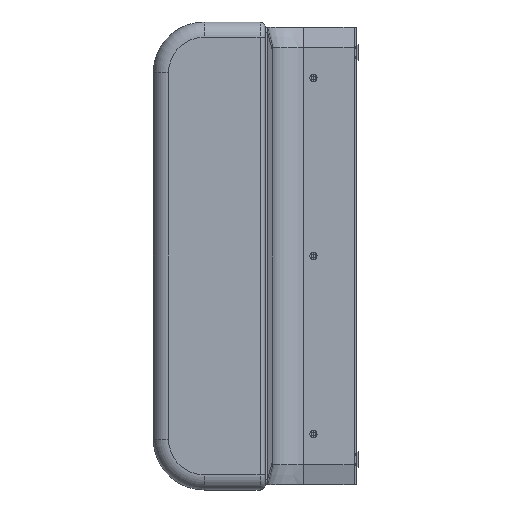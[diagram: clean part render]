
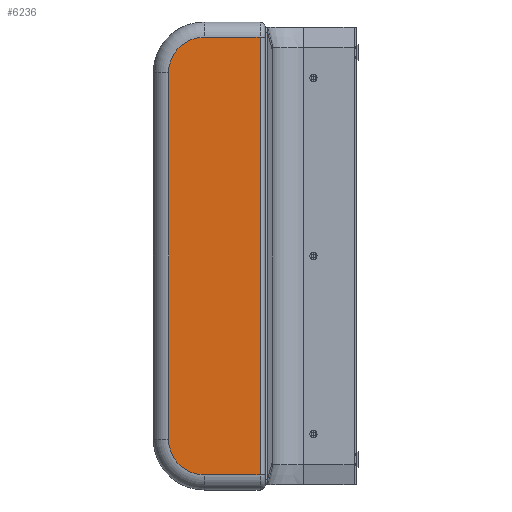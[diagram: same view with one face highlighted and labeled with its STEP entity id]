
A CAD part, left-side view. The second image highlights one B-rep face of the part: STEP entity #6236.
In plain terms, the highlighted planar face has unit normal (-1, 0, 0).
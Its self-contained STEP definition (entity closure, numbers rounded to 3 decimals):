
#65 = EDGE_CURVE ( 'NONE', #8053, #1439, #7484, .T. ) ;
#128 = EDGE_LOOP ( 'NONE', ( #5750, #6255, #241, #4865, #5634, #6027 ) ) ;
#234 = VECTOR ( 'NONE', #5374, 1000. ) ;
#241 = ORIENTED_EDGE ( 'NONE', *, *, #5636, .T. ) ;
#414 = EDGE_CURVE ( 'NONE', #6365, #8053, #2145, .T. ) ;
#556 = CARTESIAN_POINT ( 'NONE',  ( -690., 10., -20. ) ) ;
#706 = EDGE_CURVE ( 'NONE', #1416, #6365, #2246, .T. ) ;
#1051 = DIRECTION ( 'NONE',  ( -1., 0., 0. ) ) ;
#1404 = DIRECTION ( 'NONE',  ( 0., -1., 0. ) ) ;
#1416 = VERTEX_POINT ( 'NONE', #5430 ) ;
#1439 = VERTEX_POINT ( 'NONE', #7389 ) ;
#1527 = DIRECTION ( 'NONE',  ( 0., 0., -1. ) ) ;
#1828 = DIRECTION ( 'NONE',  ( 0., 0., -1. ) ) ;
#1850 = DIRECTION ( 'NONE',  ( 0., 0., -1. ) ) ;
#1881 = VERTEX_POINT ( 'NONE', #6044 ) ;
#1973 = DIRECTION ( 'NONE',  ( 1., 0., 0. ) ) ;
#2018 = LINE ( 'NONE', #4544, #7206 ) ;
#2145 = LINE ( 'NONE', #5292, #7238 ) ;
#2240 = DIRECTION ( 'NONE',  ( 0., 0., -1. ) ) ;
#2246 = CIRCLE ( 'NONE', #6848, 70. ) ;
#2634 = CARTESIAN_POINT ( 'NONE',  ( -690., 190., -810. ) ) ;
#2636 = AXIS2_PLACEMENT_3D ( 'NONE', #7871, #1051, #2240 ) ;
#2830 = LINE ( 'NONE', #3994, #6405 ) ;
#3299 = PLANE ( 'NONE',  #3901 ) ;
#3901 = AXIS2_PLACEMENT_3D ( 'NONE', #4989, #1973, #1850 ) ;
#3994 = CARTESIAN_POINT ( 'NONE',  ( -690., 10., -20. ) ) ;
#4132 = VERTEX_POINT ( 'NONE', #556 ) ;
#4525 = CARTESIAN_POINT ( 'NONE',  ( -690., 220., -20. ) ) ;
#4544 = CARTESIAN_POINT ( 'NONE',  ( -690., 220., -880. ) ) ;
#4739 = CARTESIAN_POINT ( 'NONE',  ( -690., 190., -90. ) ) ;
#4762 = LINE ( 'NONE', #4525, #234 ) ;
#4865 = ORIENTED_EDGE ( 'NONE', *, *, #706, .T. ) ;
#4989 = CARTESIAN_POINT ( 'NONE',  ( -690., 220., 10. ) ) ;
#5292 = CARTESIAN_POINT ( 'NONE',  ( -690., 190., 10. ) ) ;
#5374 = DIRECTION ( 'NONE',  ( 0., 1., 0. ) ) ;
#5430 = CARTESIAN_POINT ( 'NONE',  ( -690., 120., -20. ) ) ;
#5583 = CARTESIAN_POINT ( 'NONE',  ( -690., 120., -90. ) ) ;
#5634 = ORIENTED_EDGE ( 'NONE', *, *, #414, .T. ) ;
#5636 = EDGE_CURVE ( 'NONE', #4132, #1416, #4762, .T. ) ;
#5750 = ORIENTED_EDGE ( 'NONE', *, *, #7752, .T. ) ;
#5843 = DIRECTION ( 'NONE',  ( 0., 0., 1. ) ) ;
#6027 = ORIENTED_EDGE ( 'NONE', *, *, #65, .T. ) ;
#6044 = CARTESIAN_POINT ( 'NONE',  ( -690., 10., -880. ) ) ;
#6236 = ADVANCED_FACE ( 'NONE', ( #6267 ), #3299, .F. ) ;
#6255 = ORIENTED_EDGE ( 'NONE', *, *, #6850, .T. ) ;
#6267 = FACE_OUTER_BOUND ( 'NONE', #128, .T. ) ;
#6365 = VERTEX_POINT ( 'NONE', #4739 ) ;
#6405 = VECTOR ( 'NONE', #5843, 1000. ) ;
#6848 = AXIS2_PLACEMENT_3D ( 'NONE', #5583, #7463, #1828 ) ;
#6850 = EDGE_CURVE ( 'NONE', #1881, #4132, #2830, .T. ) ;
#7206 = VECTOR ( 'NONE', #1404, 1000. ) ;
#7238 = VECTOR ( 'NONE', #1527, 1000. ) ;
#7389 = CARTESIAN_POINT ( 'NONE',  ( -690., 120., -880. ) ) ;
#7463 = DIRECTION ( 'NONE',  ( -1., 0., 0. ) ) ;
#7484 = CIRCLE ( 'NONE', #2636, 70. ) ;
#7752 = EDGE_CURVE ( 'NONE', #1439, #1881, #2018, .T. ) ;
#7871 = CARTESIAN_POINT ( 'NONE',  ( -690., 120., -810. ) ) ;
#8053 = VERTEX_POINT ( 'NONE', #2634 ) ;
